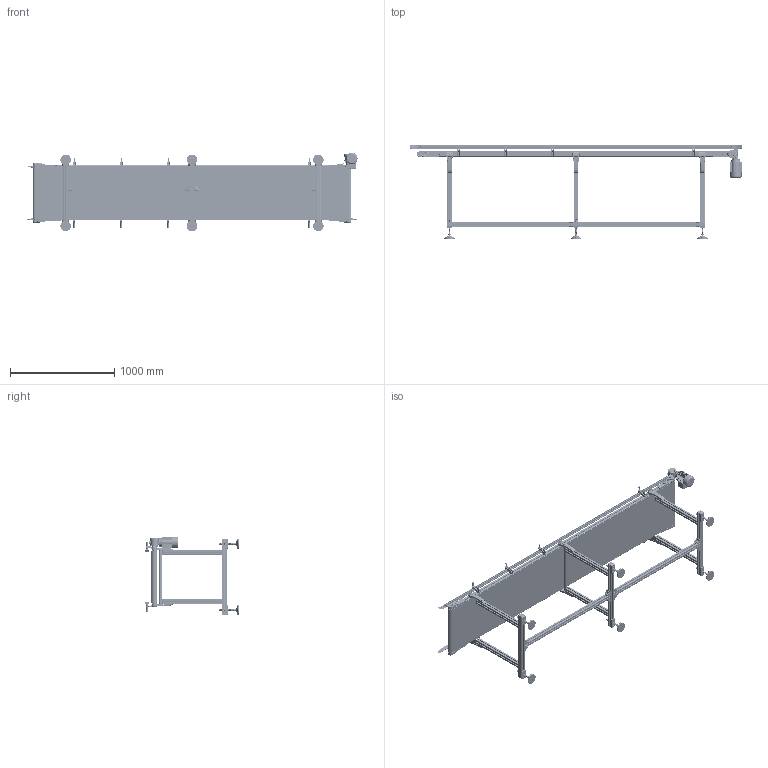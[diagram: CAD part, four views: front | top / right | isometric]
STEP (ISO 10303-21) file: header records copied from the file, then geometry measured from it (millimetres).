
FILE_DESCRIPTION (( 'STEP AP203' ), '1' );
FILE_NAME ('NASTRO_RETTILINEO_TAPPETO.step', '2026-06-06T00:22:56', ( 'Utente Windows' ), ( '' ), 'SwSTEP 2.0', 'SolidWorks 2024', '' );
FILE_SCHEMA (( 'CONFIG_CONTROL_DESIGN' ));
Length unit declared in the file: millimetre
Products named in the file (70): 084.802.014; BLOCCO_REGGITAPPETO; 084.711.010; 084.803.018; 084.711.006_L1; GRANI A PUNTA CONICA UNI 5927_M6x16 UNI 5927; 084.301.000 VITI ALUSIC_084.301.003; VITI TSEI UNI 5933 INOX_0412UNI5933A2; 084.807.002_084.807.002; 084.802.013-2; FLANGIA_GAMBA_50; GAMBE_D50_Default<A macchina>; VITE_RONDELLA_M8X20; 084.807.003_084.807.003<A macchina>; RULLO_REGGITAPPETO; 084.201.012-1; 084.305.003-1; 084.712.005; 084.201.012; VITE_DADO_M5X12; 084.711.005; 084.802.065_Default<A macchina>; TAPPETO_STANDARD_CINGHIE; DADI ESAGONALI NORMALI UNI 5588_M6 UNI 5588; 084.405.001; VITI TSEI UNI 5933_M4x10 UNI 5933; 084.711.006_PER CAVA 8 PERNO ALTO 1; 084.302.000 DADI ALUSIC 13x13-1_084.302.004; 084.303.001; 084.711.006_L2; 084.802.008; 084.802.017_084.802.017; TRAVERSA_50_Default<A macchina>; TELAIO_50_CINGHIE_Default<A macchina>; VITI TCEI UNI 5931_M4x25 UNI 5931; RONDELLE UNI 6592_8.4x17 UNI 6592; CH03P_DX; PIEDE; BLOCCO_BRACCIO_CH03P_VF30P; BLOCCO_TRAINO_50_STANDARD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
Assembly tree (203 placements, depth 4):
  NASTRO_RETTILINEO_TAPPETO
    TAPPETO_STANDARD_CINGHIE
    TELAIO_50_CINGHIE_Default<A macchina>
    LAMIERA_STANDARD  x2
    RULLO_50_TRAINO_CINGHIE_30_DX
    BLOCCO_TRAINO_50_STANDARD_30_DX
      084.807.003_084.807.003<A macchina>
      084.802.017_084.802.017
      084.301.000 VITI ALUSIC_084.301.003  x2
      084.302.000 DADI ALUSIC 13x13-1_084.302.004  x2
      BLOCCO_BRACCIO_CH03P_VF30P
        084.808.012
        084.802.062
        0820ISO2342
        084.802.061
        VITI TE UNI 5739_M6x16 UNI 5739  x4
        084.803.018
        VITI TCEI UNI 5931_M6x12 UNI 5931  x4
      084.802.065_Default<A macchina>
      VITI TCEI UNI 5931_M4x25 UNI 5931  x2
    BLOCCO_TRAINO_50_STANDARD
      084.807.002_084.807.002
      084.802.017_084.802.017
      084.301.000 VITI ALUSIC_084.301.003  x2
      084.302.000 DADI ALUSIC 13x13-1_084.302.004  x2
      084.802.071
      VITI TSEI UNI 5933 INOX_0412UNI5933A2  x2
    RULLO_50_RINVIO_CINGHIE
    BLOCCO_RINVIO_50_STANDARD  x2
      084.807.002_084.807.002
      084.802.017_084.802.017
      084.802.008
      084.301.000 VITI ALUSIC_084.301.003
      084.302.000 DADI ALUSIC 13x13_084.302.004
      VITI TSEI UNI 5933_M4x10 UNI 5933
      084.802.071
    SPONDA_Default<A macchina>  x2
    084.711.006_PER CAVA 8 PERNO ALTO 1  x8
      084.711.006_L1
      084.711.006_L2
      084.711.007
      084.711.005
      084.711.010
      DADI ESAGONALI NORMALI UNI 5588_M6 UNI 5588
    084.712.005  x4
      084.712.005
      DADI ESAGONALI NORMALI UNI 5588_M6 UNI 5588
      GRANI A PUNTA CONICA UNI 5927_M6x16 UNI 5927
    GAMBE_D50_Default<A macchina>  x3
    FLANGIA_GAMBA_50
      084.302.000 DADI ALUSIC 13x13-1_084.302.004  x4
      RONDELLE UNI 6592_8.4x17 UNI 6592  x3
      084.301.000 VITI ALUSIC_084.301.003  x4
      2010.000.068
        2010.000.068_L
        2010.000.069
        2010.000.070
    FLANGIA_GAMBA_50  x5
      084.302.000 DADI ALUSIC 13x13-1_084.302.004
      RONDELLE UNI 6592_8.4x17 UNI 6592
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Bounding box: 3178.88 x 902.1 x 751.91 mm (x, y, z)
Volume: 31518105.7 mm3; surface area: 21604112.6 mm2
Topology: 453 solids, 461 shells, 23903 faces, 61665 edges, 38882 vertices
Faces by surface type: plane 9723, cylinder 7513, bspline 2653, cone 1983, torus 1705, sphere 326
Entity records: 266973 total; most frequent: CARTESIAN_POINT 89701, ORIENTED_EDGE 36392, DIRECTION 33179, EDGE_CURVE 18196, VERTEX_POINT 11673, AXIS2_PLACEMENT_3D 11538, VECTOR 10103, LINE 10103
